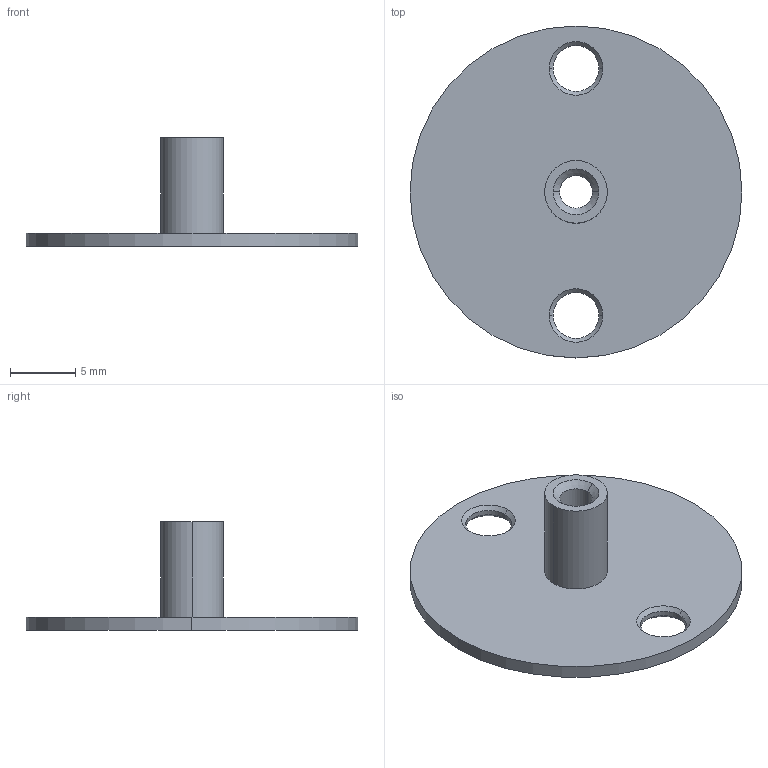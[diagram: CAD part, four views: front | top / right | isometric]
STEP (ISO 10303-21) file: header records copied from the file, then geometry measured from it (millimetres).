
FILE_DESCRIPTION (( 'STEP AP214' ), '1' );
FILE_NAME ('ïëóíæåð äàò÷èêà ñåíñîðà.STEP', '2024-08-28T11:18:54', ( '' ), ( '' ), 'SwSTEP 2.0', 'SolidWorks 2022', '' );
FILE_SCHEMA (( 'AUTOMOTIVE_DESIGN' ));
Length unit declared in the file: millimetre
Products named in the file (1): плунжер датчика сенсора
Bounding box: 25.4 x 25.4 x 8.3 mm (x, y, z)
Volume: 575.6 mm3; surface area: 1232.9 mm2
Topology: 1 solids, 1 shells, 23 faces, 50 edges, 30 vertices
Faces by surface type: cone 10, cylinder 10, plane 3
Entity records: 702 total; most frequent: DIRECTION 128, CARTESIAN_POINT 104, ORIENTED_EDGE 100, AXIS2_PLACEMENT_3D 54, EDGE_CURVE 50, VERTEX_POINT 30, CIRCLE 30, EDGE_LOOP 30
